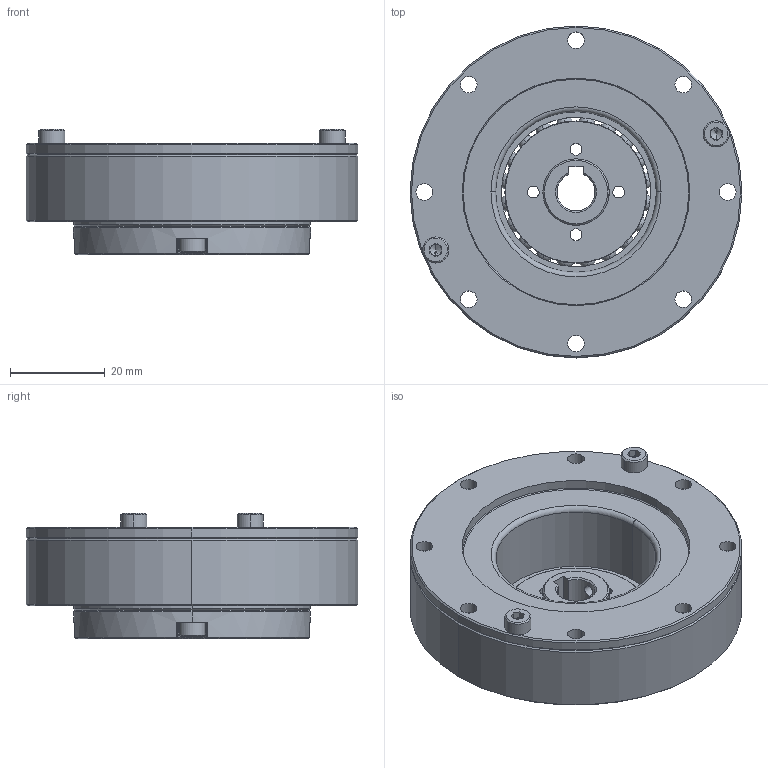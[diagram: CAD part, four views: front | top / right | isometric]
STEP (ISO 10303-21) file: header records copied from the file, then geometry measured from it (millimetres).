
FILE_DESCRIPTION (( 'STEP AP203' ), '1' );
FILE_NAME ('BHS-14-XXX-U-¢ñ.STEP', '2019-01-15T03:37:44', ( 'User' ), ( 'China' ), 'SwSTEP 2.0', 'SolidWorks 2015', '' );
FILE_SCHEMA (( 'CONFIG_CONTROL_DESIGN' ));
Length unit declared in the file: millimetre
Products named in the file (1): BHS-14-XXX-U-ｉ
Bounding box: 70 x 70 x 26.5 mm (x, y, z)
Surface area: 29094.3 mm2 (no closed solid volume)
Topology: 0 solids, 14 shells, 330 faces, 1068 edges, 694 vertices
Faces by surface type: cylinder 112, plane 107, cone 57, sphere 40, torus 10, bspline 4
Entity records: 13352 total; most frequent: CARTESIAN_POINT 4356, DIRECTION 1948, ORIENTED_EDGE 1736, EDGE_CURVE 956, AXIS2_PLACEMENT_3D 782, VERTEX_POINT 634, CIRCLE 455, EDGE_LOOP 426
